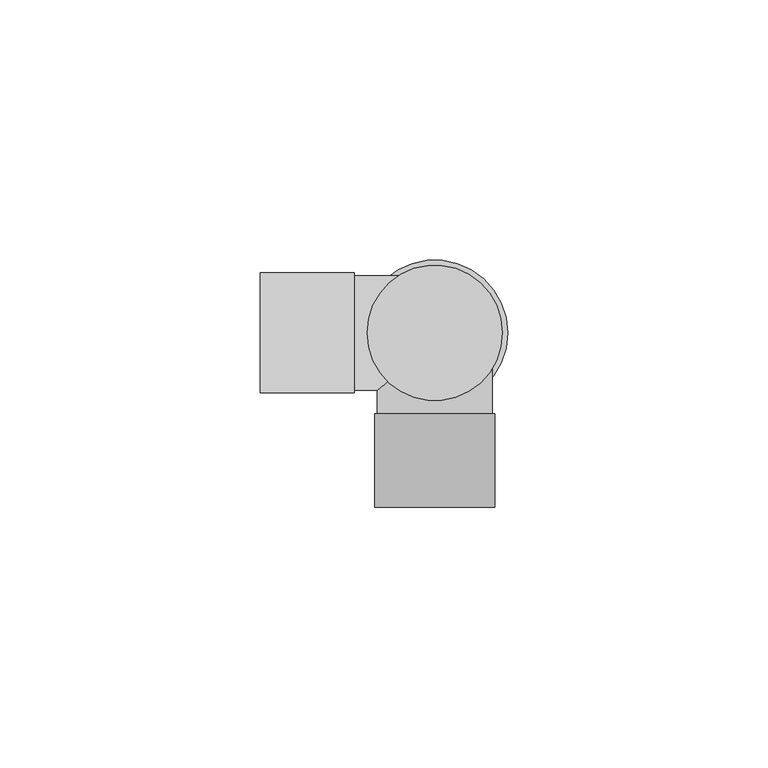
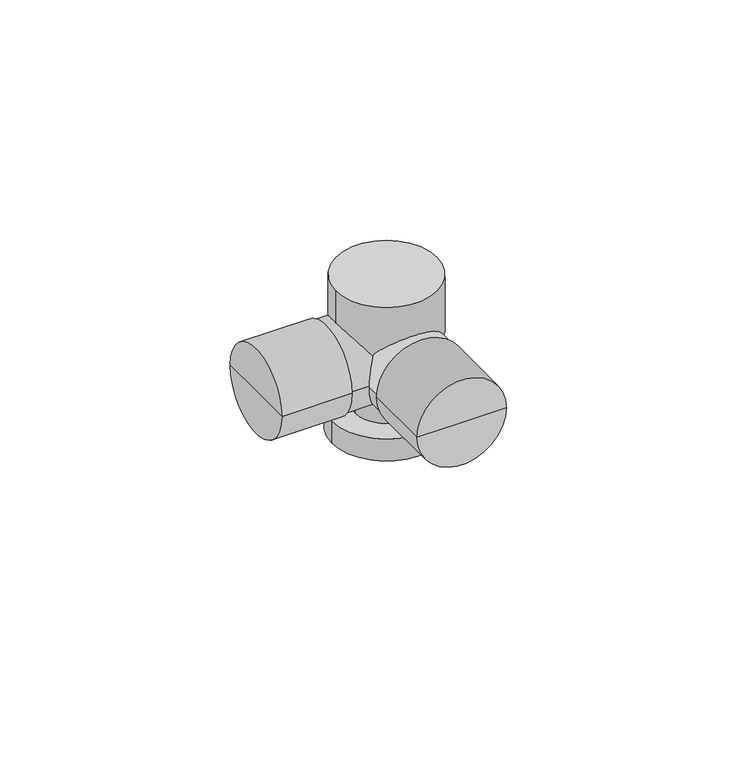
"""IFC4 building model written with IfcOpenShell, lengths in millimetres: pipe fitting geometry, KAN-therm Push podejście kątowe do baterii : KAN-therm Push podejście kątowe do baterii."""

import ifcopenshell
import ifcopenshell.guid

model = None  # the IFC model being written
_history = None  # IfcOwnerHistory: only IFC2X3 demands one
_inside = {}  # id of a spatial element -> (the spatial element, [elements in it])
_under = {}  # id of a project, library or spatial element -> (it, [spatial elements below it])
_declared = {}  # id of a project -> (the project, [libraries it declares])
_typed = {}  # id of a type object -> (the type object, [elements of that type])
_made_of = {}  # id of a material, layer set ... -> (it, [elements and type objects made of it])


def new_model(schema):
    """Start an empty IFC model of exactly this schema.

    Asked for "IFC4X3", IfcOpenShell would pick the latest addendum, in which some entities
    have other attributes; the version numbers below select the first issue.
    IFC2X3 requires an IfcOwnerHistory on every rooted entity: one is made here for all.
    """
    global model, _history
    if schema == "IFC4X3":
        model = ifcopenshell.file(schema_version=(4, 3, 0, 0))
    else:
        model = ifcopenshell.file(schema=schema)
    _inside.clear()
    _under.clear()
    _declared.clear()
    _typed.clear()
    _made_of.clear()
    _history = None
    if model.schema == "IFC2X3":
        org = make("IfcOrganization", Name="unknown")
        user = make(
            "IfcPersonAndOrganization",
            ThePerson=make("IfcPerson", FamilyName="unknown"),
            TheOrganization=org,
        )
        app = make(
            "IfcApplication",
            ApplicationDeveloper=org,
            Version="unknown",
            ApplicationFullName="unknown",
            ApplicationIdentifier="unknown",
        )
        _history = make(
            "IfcOwnerHistory",
            OwningUser=user,
            OwningApplication=app,
            ChangeAction="ADDED",
            CreationDate=0,
        )
    return model


def make(cls, **values):
    """One entity of the class cls with the attributes given. An attribute that is None is left unset."""
    return model.create_entity(
        cls, **{name: value for name, value in values.items() if value is not None}
    )


def rooted(cls, **values):
    """An entity with a GlobalId (a new one), such as an element, a storey or a relation."""
    return make(cls, GlobalId=ifcopenshell.guid.new(), OwnerHistory=_history, **values)


def si_unit(unit_type, name, prefix=None):
    """IfcSIUnit, for example si_unit("LENGTHUNIT", "METRE", prefix="MILLI")."""
    return make("IfcSIUnit", UnitType=unit_type, Prefix=prefix, Name=name)


def assignment(units):
    """IfcUnitAssignment: the units of a project."""
    return None if units is None else make("IfcUnitAssignment", Units=units)


def point(xyz):
    """IfcCartesianPoint."""
    return None if xyz is None else make("IfcCartesianPoint", Coordinates=xyz)


def direction(xyz):
    """IfcDirection."""
    return None if xyz is None else make("IfcDirection", DirectionRatios=xyz)


def frame(location, z_axis=None, x_axis=None):
    """IfcAxis2Placement3D, a coordinate frame: its origin and axes. An axis left out is left unset."""
    return make(
        "IfcAxis2Placement3D",
        Location=point(location),
        Axis=direction(z_axis),
        RefDirection=direction(x_axis),
    )


def frame_2d(location, x_axis=None):
    """IfcAxis2Placement2D, a coordinate frame in the plane: its origin and x axis."""
    return make(
        "IfcAxis2Placement2D", Location=point(location), RefDirection=direction(x_axis)
    )


def origin():
    """The frame at (0, 0, 0) with its axes left unset."""
    return frame((0.0, 0.0, 0.0))


def origin_2d():
    """The frame at (0, 0) in the plane with its x axis left unset."""
    return frame_2d((0.0, 0.0))


def place(relative_to, where):
    """IfcLocalPlacement: puts the frame where relative to a parent placement (None: the world)."""
    return make(
        "IfcLocalPlacement", PlacementRelTo=relative_to, RelativePlacement=where
    )


def context(
    kind, dimensions, precision=None, world=None, true_north=None, identifier=None
):
    """IfcGeometricRepresentationContext, for example the 3D "Model" context."""
    return make(
        "IfcGeometricRepresentationContext",
        ContextIdentifier=identifier,
        ContextType=kind,
        CoordinateSpaceDimension=dimensions,
        Precision=precision,
        WorldCoordinateSystem=world,
        TrueNorth=true_north,
    )


def project(units=None, contexts=None):
    """IfcProject with its units and contexts."""
    return rooted(
        "IfcProject",
        Name="project",
        RepresentationContexts=contexts,
        UnitsInContext=assignment(units),
    )


def spatial(cls, under=None, at=None, **own):
    """A site, building, storey or space (cls), placed at a placement, below another one or the project."""
    s = rooted(cls, ObjectPlacement=at, **own)
    if under is not None:
        _under.setdefault(under.id(), (under, []))[1].append(s)
    return s


def circle_curve(where, radius):
    """IfcCircle in the frame where."""
    return make("IfcCircle", Position=where, Radius=radius)


def trimmed(basis, trim1, trim2, sense, master):
    """IfcTrimmedCurve: the piece of a basis curve between two trims."""
    return make(
        "IfcTrimmedCurve",
        BasisCurve=basis,
        Trim1=trim1,
        Trim2=trim2,
        SenseAgreement=sense,
        MasterRepresentation=master,
    )


def segment(curve, same_sense, transition):
    """IfcCompositeCurveSegment."""
    return make(
        "IfcCompositeCurveSegment",
        Transition=transition,
        SameSense=same_sense,
        ParentCurve=curve,
    )


def composite_curve(segments, self_intersect=None):
    """IfcCompositeCurve: segments joined end to end."""
    return make("IfcCompositeCurve", Segments=segments, SelfIntersect=self_intersect)


def outline(outer, holes=None, kind="AREA"):
    """IfcArbitraryClosedProfileDef: a profile drawn as a closed curve; with holes, ...WithVoids."""
    if holes is None:
        return make("IfcArbitraryClosedProfileDef", ProfileType=kind, OuterCurve=outer)
    return make(
        "IfcArbitraryProfileDefWithVoids",
        ProfileType=kind,
        OuterCurve=outer,
        InnerCurves=holes,
    )


def extrude(swept, where, along, depth):
    """IfcExtrudedAreaSolid: the profile swept, set in the frame where, extruded along a direction by depth."""
    return make(
        "IfcExtrudedAreaSolid",
        SweptArea=swept,
        Position=where,
        ExtrudedDirection=direction(along),
        Depth=depth,
    )


def shape(context_of_items, identifier, shape_type, items):
    """IfcShapeRepresentation: the items that make up one representation, for example the "Body"."""
    return make(
        "IfcShapeRepresentation",
        ContextOfItems=context_of_items,
        RepresentationIdentifier=identifier,
        RepresentationType=shape_type,
        Items=items,
    )


def source(mapping_origin, context_of_items, identifier, shape_type, items):
    """IfcRepresentationMap: a shape defined once, which mapped items show again and again."""
    return make(
        "IfcRepresentationMap",
        MappingOrigin=mapping_origin,
        MappedRepresentation=shape(context_of_items, identifier, shape_type, items),
    )


def transform(
    local_origin,
    x_axis=None,
    y_axis=None,
    z_axis=None,
    scale=None,
    scale2=None,
    scale3=None,
    uniform=True,
):
    """IfcCartesianTransformationOperator3D, or its non-uniform kind. x_axis, y_axis, z_axis: its Axis1, 2, 3."""
    if uniform:
        return make(
            "IfcCartesianTransformationOperator3D",
            Axis1=direction(x_axis),
            Axis2=direction(y_axis),
            LocalOrigin=point(local_origin),
            Scale=scale,
            Axis3=direction(z_axis),
        )
    return make(
        "IfcCartesianTransformationOperator3DnonUniform",
        Axis1=direction(x_axis),
        Axis2=direction(y_axis),
        LocalOrigin=point(local_origin),
        Scale=scale,
        Axis3=direction(z_axis),
        Scale2=scale2,
        Scale3=scale3,
    )


def mapped(mapping_source, mapping_target):
    """IfcMappedItem: shows the shape of a source again, moved by a transform."""
    return make(
        "IfcMappedItem", MappingSource=mapping_source, MappingTarget=mapping_target
    )


def made_of(thing, what):
    """Note that an element or type object is made of a material, layer set ...; save() writes the relation."""
    if what is not None:
        _made_of.setdefault(what.id(), (what, []))[1].append(thing)
    return thing


def element(
    cls,
    number,
    at=None,
    inside=None,
    cuts=None,
    type_object=None,
    material=None,
    context=None,
    identifier="Body",
    shape_type=None,
    held_by="IfcProductDefinitionShape",
    body=None,
    shapes=None,
    **own,
):
    """One element of the class cls, such as IfcWall. Its Tag is "e" and its number.

    at: its placement. inside: the storey or other place that contains it. cuts: it is an
    opening in that element (IfcRelVoidsElement). A single representation is given by context,
    identifier, shape_type and body (its items); several are given by shapes. held_by: the class
    of the entity that holds the representations. save() writes the other relations.
    """
    e = rooted(cls, Tag="e%d" % number, ObjectPlacement=at, **own)
    if body is not None:
        shapes = [shape(context, identifier, shape_type, body)]
    if shapes is not None:
        e.Representation = make(held_by, Representations=shapes)
    if inside is not None:
        _inside.setdefault(inside.id(), (inside, []))[1].append(e)
    if cuts is not None:
        rooted(
            "IfcRelVoidsElement", RelatingBuildingElement=cuts, RelatedOpeningElement=e
        )
    if type_object is not None:
        _typed.setdefault(type_object.id(), (type_object, []))[1].append(e)
    return made_of(e, material)


def aggregate(whole, parts):
    """IfcRelAggregates: a whole, such as a stair, and the parts it consists of."""
    return rooted("IfcRelAggregates", RelatingObject=whole, RelatedObjects=parts)


def save(model, path):
    """Write the relations noted so far, then the file.

    IfcRelAggregates (storeys below a building ...), IfcRelContainedInSpatialStructure (elements
    in a storey), IfcRelDefinesByType, IfcRelAssociatesMaterial and IfcRelDeclares: one each for
    every whole, place, type object, material and project.
    """
    for whole, parts in _under.values():
        aggregate(whole, parts)
    for where, things in _inside.values():
        rooted(
            "IfcRelContainedInSpatialStructure",
            RelatedElements=things,
            RelatingStructure=where,
        )
    for kind, things in _typed.values():
        rooted("IfcRelDefinesByType", RelatedObjects=things, RelatingType=kind)
    for what, things in _made_of.values():
        rooted("IfcRelAssociatesMaterial", RelatedObjects=things, RelatingMaterial=what)
    for by, libraries in _declared.values():
        rooted("IfcRelDeclares", RelatingContext=by, RelatedDefinitions=libraries)
    model.write(path)


def plane_surface(at):
    """IfcPlane: the flat surface through the origin of the frame at, square to its z axis."""
    return make("IfcPlane", Position=at)


def cylinder_surface(at, radius):
    """IfcCylindricalSurface: all points at the distance radius from the z axis of the frame at."""
    return make("IfcCylindricalSurface", Position=at, Radius=radius)


def advanced_brep(points, edges, surfaces, faces):
    """IfcAdvancedBrep: a solid bounded by faces that lie on surfaces and meet in shared edges.

    An edge is (start, end): straight between two places in points (the first is 0);
    or (start, end, curve); or (start, end, curve, False) where it runs against its curve.
    A face is (place in surfaces, loops), or (place, loops, False) where it looks against
    its surface's normal. A loop lists edges by number (the first is 1), with a minus sign
    where the edge is run from its end to its start. The first loop is the outer one.
    """
    corners = [point(p) for p in points]
    vertices = [make("IfcVertexPoint", VertexGeometry=c) for c in corners]
    made = []
    for start, end, *more in edges:
        made.append(
            make(
                "IfcEdgeCurve",
                EdgeStart=vertices[start],
                EdgeEnd=vertices[end],
                EdgeGeometry=more[0] if more else make("IfcPolyline", Points=[corners[start], corners[end]]),
                SameSense=more[1] if len(more) > 1 else True,
            )
        )
    hull = []
    for where, loops, *sense in faces:
        bounds = []
        for j, loop in enumerate(loops):
            ring = [make("IfcOrientedEdge", EdgeElement=made[abs(k) - 1], Orientation=k > 0) for k in loop]
            bounds.append(
                make(
                    "IfcFaceOuterBound" if j == 0 else "IfcFaceBound",
                    Bound=make("IfcEdgeLoop", EdgeList=ring),
                    Orientation=True,
                )
            )
        hull.append(make("IfcAdvancedFace", Bounds=bounds, FaceSurface=surfaces[where], SameSense=sense[0] if sense else True))
    return make("IfcAdvancedBrep", Outer=make("IfcClosedShell", CfsFaces=hull))


def pipe_fitting_9f7363b6(model_context):
    return source(origin(), model_context, "Body", "SolidModel", [
        advanced_brep(
        [(-33.5, 11.5, 0.0), (-33.5, -11.5, 0.0), (-33.5, 0.0, 0.0), (-15.5, 11.5, 0.0), (-15.5, -11.5, 0.0), (-15.5, 0.0, 0.0)],
        [
            (0, 1, circle_curve(frame((-33.5, 0.0, 0.0), z_axis=(-1.0, 0.0, 0.0), x_axis=(0.0, -1.0, 0.0)), 11.5)),
            (1, 2),
            (2, 0),
            (1, 0, circle_curve(frame((-33.5, 0.0, 0.0), z_axis=(-1.0, 0.0, 0.0), x_axis=(0.0, -1.0, 0.0)), 11.5)),
            (3, 4, circle_curve(frame((-15.5, 0.0, 0.0), z_axis=(-1.0, 0.0, 0.0), x_axis=(0.0, -1.0, 0.0)), 11.5)),
            (4, 1),
            (0, 3),
            (4, 3, circle_curve(frame((-15.5, 0.0, 0.0), z_axis=(-1.0, 0.0, 0.0), x_axis=(0.0, -1.0, 0.0)), 11.5)),
            (5, 4),
            (3, 5),
        ],
        [
            plane_surface(frame((-33.5, 0.0, 0.0), z_axis=(-1.0, 0.0, 0.0), x_axis=(0.0, -1.0, 0.0))),
            cylinder_surface(frame((-2010.5, 0.0, 0.0), z_axis=(1.0, 0.0, 0.0), x_axis=(0.0, -1.0, 0.0)), 11.5),
            plane_surface(frame((-15.5, 0.0, 0.0), z_axis=(1.0, 0.0, 0.0), x_axis=(0.0, -1.0, 0.0))),
        ],
        [
            (0, [[1, 2, 3]]),
            (0, [[4, -3, -2]]),
            (1, [[5, 6, -1, 7]]),
            (1, [[8, -7, -4, -6]]),
            (2, [[9, -5, 10]]),
            (2, [[-10, -8, -9]]),
        ],
    ),
        advanced_brep(
        [(-11.5, -33.5, 0.0), (11.5, -33.5, 0.0), (0.0, -33.5, 0.0), (-11.5, -15.5, 0.0), (11.5, -15.5, 0.0), (0.0, -15.5, 0.0)],
        [
            (0, 1, circle_curve(frame((0.0, -33.5, 0.0), z_axis=(0.0, -1.0, 0.0), x_axis=(1.0000000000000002, 0.0, 0.0)), 11.5)),
            (1, 2),
            (2, 0),
            (1, 0, circle_curve(frame((0.0, -33.5, 0.0), z_axis=(0.0, -1.0, 0.0), x_axis=(1.0000000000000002, 0.0, 0.0)), 11.5)),
            (3, 4, circle_curve(frame((0.0, -15.5, 0.0), z_axis=(0.0, -1.0, 0.0), x_axis=(1.0000000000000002, 0.0, 0.0)), 11.5)),
            (4, 1),
            (0, 3),
            (4, 3, circle_curve(frame((0.0, -15.5, 0.0), z_axis=(0.0, -1.0, 0.0), x_axis=(1.0000000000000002, 0.0, 0.0)), 11.5)),
            (5, 4),
            (3, 5),
        ],
        [
            plane_surface(frame((0.0, -33.5, 0.0), z_axis=(0.0, -1.0, 0.0), x_axis=(1.0, 0.0, 0.0))),
            cylinder_surface(frame((0.0, -2010.5, 0.0), z_axis=(0.0, 1.0000000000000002, 0.0), x_axis=(1.0000000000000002, 0.0, 0.0)), 11.5),
            plane_surface(frame((0.0, -15.5, 0.0), z_axis=(0.0, 1.0, 0.0), x_axis=(1.0, 0.0, 0.0))),
        ],
        [
            (0, [[1, 2, 3]]),
            (0, [[4, -3, -2]]),
            (1, [[5, 6, -1, 7]]),
            (1, [[8, -7, -4, -6]]),
            (2, [[9, -5, 10]]),
            (2, [[-10, -8, -9]]),
        ],
    ),
        extrude(outline(composite_curve([segment(trimmed(circle_curve(origin_2d(), 11.0), [point((-11.0, 0.0))], [point((11.0, 0.0))], False, "CARTESIAN"), True, "CONTINUOUS"), segment(trimmed(circle_curve(origin_2d(), 11.0), [point((11.0, 0.0))], [point((-11.0, 0.0))], False, "CARTESIAN"), True, "CONTINUOUS")], self_intersect=False)), frame((-15.5, 0.0, 0.0), z_axis=(1.0, 0.0, 0.0), x_axis=(0.0, 1.0, 0.0)), (0.0, 0.0, 1.0), 15.5),
        extrude(outline(composite_curve([segment(trimmed(circle_curve(origin_2d(), 8.0), [point((-8.0, 0.0))], [point((8.0, 0.0))], False, "CARTESIAN"), True, "CONTINUOUS"), segment(trimmed(circle_curve(origin_2d(), 8.0), [point((8.0, 0.0))], [point((-8.0, 0.0))], False, "CARTESIAN"), True, "CONTINUOUS")], self_intersect=False)), frame((0.0, 0.0, -15.0), z_axis=(0.0, 0.0, 1.0), x_axis=(1.0, 0.0, 0.0)), (0.0, 0.0, 1.0), 8.0),
        extrude(outline(composite_curve([segment(trimmed(circle_curve(origin_2d(), 11.0), [point((0.0, -11.0))], [point((0.0, 11.0))], False, "CARTESIAN"), True, "CONTINUOUS"), segment(trimmed(circle_curve(origin_2d(), 11.0), [point((0.0, 11.0))], [point((0.0, -11.0))], False, "CARTESIAN"), True, "CONTINUOUS")], self_intersect=False)), frame((0.0, -15.5, 0.0), z_axis=(0.0, 1.0, 0.0), x_axis=(0.0, 0.0, 1.0)), (0.0, 0.0, 1.0), 15.5),
        extrude(outline(composite_curve([segment(trimmed(circle_curve(origin_2d(), 14.0), [point((-14.0, 0.0))], [point((14.0, 0.0))], False, "CARTESIAN"), True, "CONTINUOUS"), segment(trimmed(circle_curve(origin_2d(), 14.0), [point((14.0, 0.0))], [point((-14.0, 0.0))], False, "CARTESIAN"), True, "CONTINUOUS")], self_intersect=False)), frame((0.0, 0.0, -21.0), z_axis=(0.0, 0.0, 1.0), x_axis=(1.0, 0.0, 0.0)), (0.0, 0.0, 1.0), 6.0),
        extrude(outline(composite_curve([segment(trimmed(circle_curve(origin_2d(), 11.0), [point((-11.0, 0.0))], [point((11.0, 0.0))], False, "CARTESIAN"), True, "CONTINUOUS"), segment(trimmed(circle_curve(origin_2d(), 11.0), [point((11.0, 0.0))], [point((-11.0, 0.0))], False, "CARTESIAN"), True, "CONTINUOUS")], self_intersect=False)), frame((0.0, 0.0, -7.0), z_axis=(0.0, 0.0, 1.0), x_axis=(1.0, 0.0, 0.0)), (0.0, 0.0, 1.0), 15.0),
        extrude(outline(composite_curve([segment(trimmed(circle_curve(origin_2d(), 13.0), [point((-13.0, 0.0))], [point((13.0, 0.0))], False, "CARTESIAN"), True, "CONTINUOUS"), segment(trimmed(circle_curve(origin_2d(), 13.0), [point((13.0, 0.0))], [point((-13.0, 0.0))], False, "CARTESIAN"), True, "CONTINUOUS")], self_intersect=False)), frame((0.0, 0.0, 5.0), z_axis=(0.0, 0.0, 1.0), x_axis=(1.0, 0.0, 0.0)), (0.0, 0.0, 1.0), 15.0),
    ])


if __name__ == "__main__":
    model = new_model("IFC4")
    model_context = context("Model", 3, world=origin())
    ifc_project = project(units=[si_unit("LENGTHUNIT", "METRE", prefix="MILLI")], contexts=[model_context])
    site = spatial("IfcSite", under=ifc_project)
    building = spatial("IfcBuilding", under=site)
    placement = place(None, origin())
    pipe_fitting_shape = pipe_fitting_9f7363b6(model_context)
    element("IfcPipeFitting", 1, ObjectType="KAN-therm Push podejście kątowe do baterii : KAN-therm Push podejście kątowe do baterii", at=placement, inside=building, context=model_context, shape_type="MappedRepresentation", body=[
        mapped(pipe_fitting_shape, transform((0.0, 0.0, 0.0), x_axis=(1.0, 0.0, 0.0), y_axis=(0.0, 1.0, 0.0), z_axis=(0.0, 0.0, 1.0))),
    ])
    save(model, "model.ifc")
